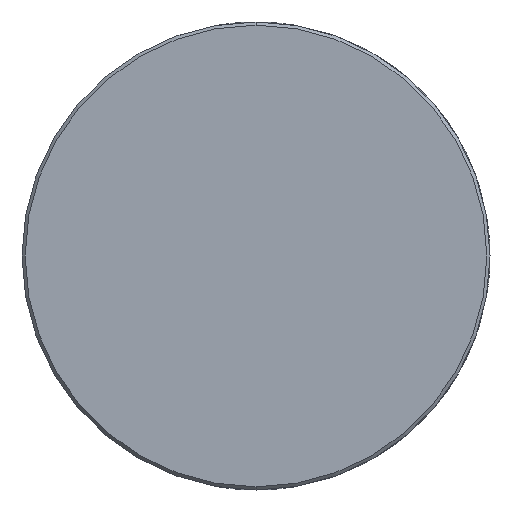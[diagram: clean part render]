
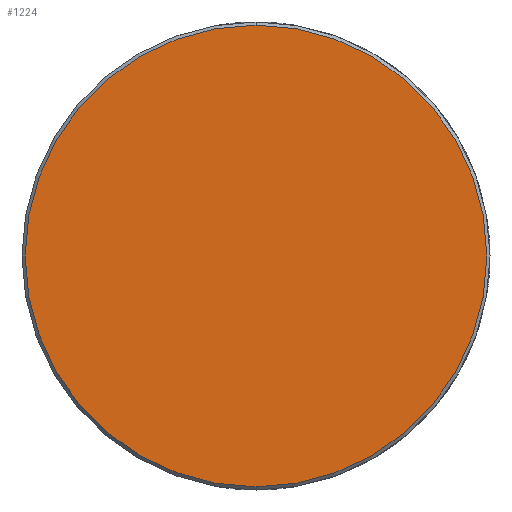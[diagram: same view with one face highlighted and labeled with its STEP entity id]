
A CAD part, front view. The second image highlights one B-rep face of the part: STEP entity #1224.
In plain terms, the highlighted planar face has unit normal (0, -1, 0).
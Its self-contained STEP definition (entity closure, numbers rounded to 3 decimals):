
#1199=CARTESIAN_POINT('',(0.0,-150.64,36.0));
#1200=VERTEX_POINT('',#1199);
#1201=CARTESIAN_POINT('',(0.0,-150.64,-36.0));
#1202=VERTEX_POINT('',#1201);
#1203=CARTESIAN_POINT('',(0.0,-150.64,0.0));
#1204=DIRECTION('',(0.0,-1.0,0.0));
#1205=DIRECTION('',(0.0,0.0,1.0));
#1206=AXIS2_PLACEMENT_3D('',#1203,#1204,#1205);
#1207=CIRCLE('',#1206,36.0);
#1208=EDGE_CURVE('no 1540',#1200,#1202,#1207,.T.);
#1209=ORIENTED_EDGE('',*,*,#1208,.T.);
#1210=CARTESIAN_POINT('',(0.0,-150.64,0.0));
#1211=DIRECTION('',(0.0,-1.0,0.0));
#1212=DIRECTION('',(0.0,0.0,1.0));
#1213=AXIS2_PLACEMENT_3D('',#1210,#1211,#1212);
#1214=CIRCLE('',#1213,36.0);
#1215=EDGE_CURVE('no 1544',#1202,#1200,#1214,.T.);
#1216=ORIENTED_EDGE('',*,*,#1215,.T.);
#1217=EDGE_LOOP('',(#1209,#1216));
#1218=FACE_OUTER_BOUND('',#1217,.T.);
#1219=CARTESIAN_POINT('',(36.5,-150.64,0.0));
#1220=DIRECTION('',(0.0,1.0,0.0));
#1221=DIRECTION('',(0.0,0.0,-1.0));
#1222=AXIS2_PLACEMENT_3D('',#1219,#1220,#1221);
#1223=PLANE('',#1222);
#1224=ADVANCED_FACE('no 1531',(#1218),#1223,.F.);
